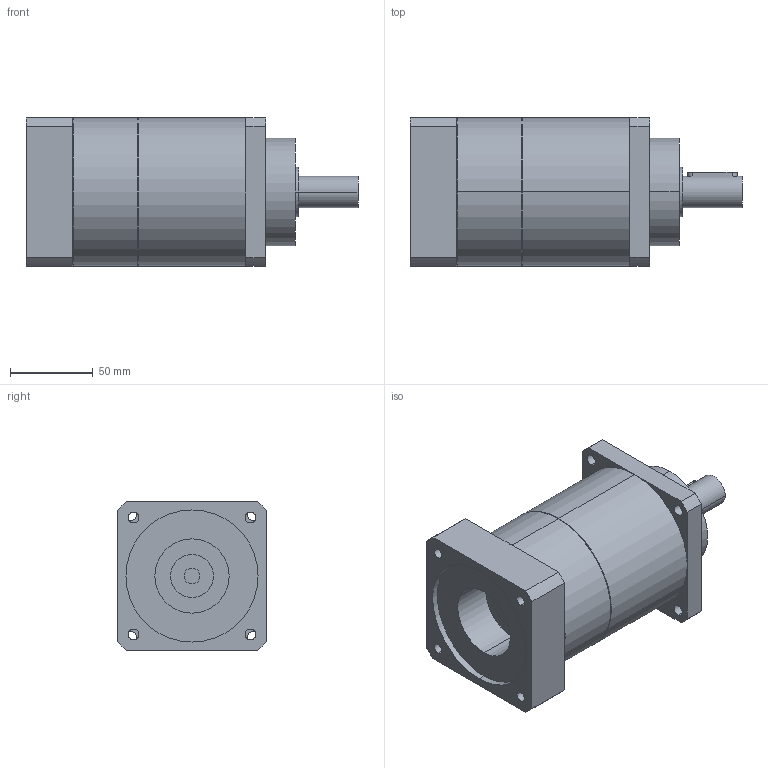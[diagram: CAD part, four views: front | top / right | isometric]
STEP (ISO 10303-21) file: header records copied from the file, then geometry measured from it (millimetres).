
FILE_DESCRIPTION(('CoCreate Modeling STEP Export'),'2;1');
FILE_NAME('GPT90_ig-9-12-16-20-25-28-35-40-50-70-100_19_B5T_9.525_P28.stp','2015-02-04T11:35:23',(''),(''),'CoCreate Modeling STEP processor for AP214 (Solid Model)','CoCreate Modeling 16.00C 25-Feb-2009 (C) Parametric Technology GmbH','');
FILE_SCHEMA(('AUTOMOTIVE_DESIGN { 1 0 10303 214 1 1 1 1 }'));
Length unit declared in the file: millimetre
Products named in the file (2): GPT90_ig-9-12-16-20-25-28-35-40-50-70-100_19_B5T_9.525_P28
Assembly tree (1 placements, depth 2):
  GPT90_ig-9-12-16-20-25-28-35-40-50-70-100_19_B5T_9.525_P28
    GPT90_ig-9-12-16-20-25-28-35-40-50-70-100_19_B5T_9.525_P28
Bounding box: 201 x 90 x 90 mm (x, y, z)
Volume: 996359.8 mm3; surface area: 78413.6 mm2
Topology: 1 solids, 1 shells, 77 faces, 206 edges, 141 vertices
Faces by surface type: cylinder 46, plane 27, cone 4
Entity records: 2596 total; most frequent: CARTESIAN_POINT 742, ORIENTED_EDGE 412, DIRECTION 324, EDGE_CURVE 206, VERTEX_POINT 141, AXIS2_PLACEMENT_3D 120, EDGE_LOOP 103, VECTOR 84
